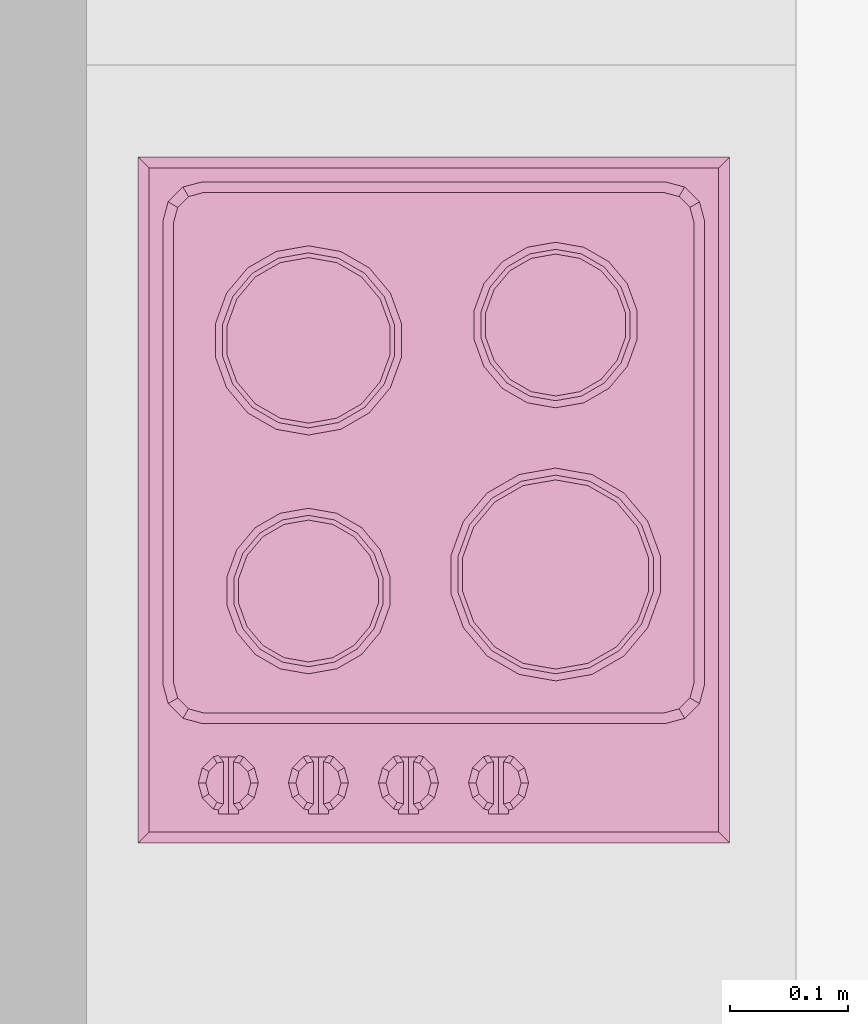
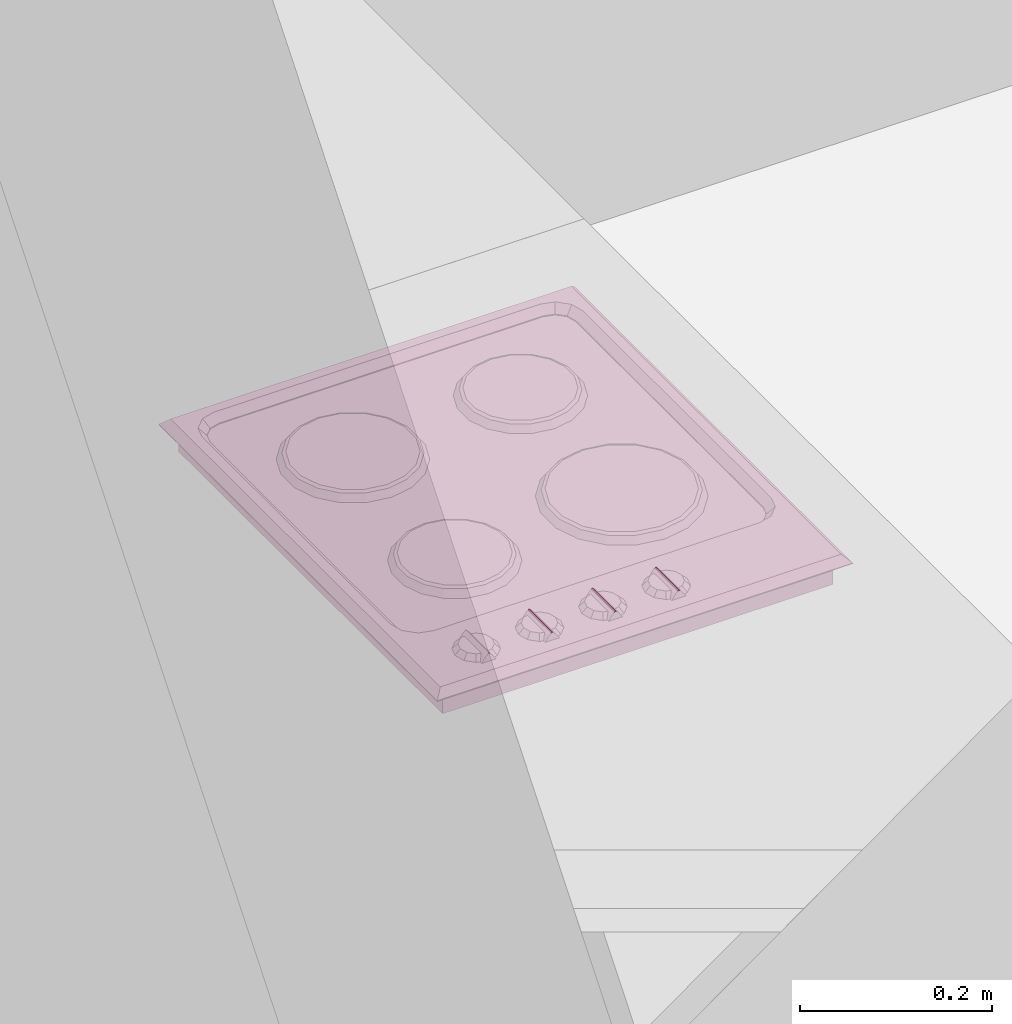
# One storey, part 172 of 172: 1 furnishing.
"""IFC2X3 building model written with IfcOpenShell, lengths in millimetres."""

from ifc_helpers import new_model, entity, si_unit, converted_unit, money_unit, direction, frame, origin_with_axes, place, context, subcontext, project, spatial, faceted_brep, material, material_list, type_object, element, save


model = new_model("IFC2X3")

# Units and contexts
model_context = context("Model", 3, precision=1e-05, world=origin_with_axes(), true_north=direction((0.0, 1.0)))
body_context = subcontext(model_context, "Body", "Model", "MODEL_VIEW")
ifc_project = project(units=[si_unit("LENGTHUNIT", "METRE", prefix="MILLI"), si_unit("AREAUNIT", "SQUARE_METRE"), si_unit("VOLUMEUNIT", "CUBIC_METRE"), converted_unit("PLANEANGLEUNIT", "DEGREE", entity("IfcPlaneAngleMeasure", 0.0174532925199), si_unit("PLANEANGLEUNIT", "RADIAN"), dimensions=[0, 0, 0, 0, 0, 0, 0]), si_unit("SOLIDANGLEUNIT", "STERADIAN"), money_unit("USD"), converted_unit("TIMEUNIT", "Year", entity("IfcTimeMeasure", 31556926.0), si_unit("TIMEUNIT", "SECOND"), dimensions=[0, 0, 0, 0, 0, 0, 0]), si_unit("MASSUNIT", "GRAM"), si_unit("THERMODYNAMICTEMPERATUREUNIT", "DEGREE_CELSIUS"), si_unit("LUMINOUSINTENSITYUNIT", "LUMEN")], contexts=[model_context])

# Site, building, storey
site_placement = place(None, origin_with_axes())
site = spatial("IfcSite", under=ifc_project, at=site_placement, Name="Site", CompositionType="ELEMENT")
building_placement = place(site_placement, origin_with_axes())
building = spatial("IfcBuilding", under=site, at=building_placement, Name="Building", CompositionType="ELEMENT")
storey_placement = place(building_placement, frame((0.0, 0.0, 3200.0), z_axis=(0.0, 0.0, 1.0), x_axis=(1.0, 0.0, 0.0)))
storey = spatial("IfcBuildingStorey", under=building, at=storey_placement, Name="3KORRUS", CompositionType="ELEMENT", Elevation=3200.0)

# Furnishing
ifc_material = material(Name="Background")
ifc_material_list = material_list([ifc_material])
furnishing_element_type = type_object("IfcFurnishingElementType", Name="Cooktops Electric 19")
furnishing_placement = place(storey_placement, frame((-17946.5850987, -14367.2886973, -20.0), z_axis=(0.0, 0.0, 1.0), x_axis=(0.0, -1.0, 0.0)))
element("IfcFurnishingElement", 1, at=furnishing_placement, inside=storey, type_object=furnishing_element_type, material=ifc_material_list, Name="FU - 007", context=body_context, shape_type="Brep", body=[
    faceted_brep([(230.175, 116.638, 900.0), (235.0, 144.0, 900.0), (229.0, 144.0, 908.0), (224.537, 118.691, 908.0), (216.284, 92.577, 900.0), (195.0, 74.718, 900.0), (168.892, 65.215, 900.0), (141.108, 65.215, 900.0), (115.0, 74.718, 900.0), (93.716, 92.577, 900.0), (79.825, 116.638, 900.0), (75.0, 144.0, 900.0), (79.825, 171.362, 900.0), (93.716, 195.423, 900.0), (115.0, 213.282, 900.0), (141.108, 222.785, 900.0), (168.892, 222.785, 900.0), (195.0, 213.282, 900.0), (216.284, 195.423, 900.0), (230.175, 171.362, 900.0), (224.537, 169.309, 908.0), (211.687, 191.566, 908.0), (192.0, 208.086, 908.0), (167.85, 216.876, 908.0), (142.15, 216.876, 908.0), (118.0, 208.086, 908.0), (98.313, 191.566, 908.0), (85.463, 169.309, 908.0), (81.0, 144.0, 908.0), (85.463, 118.691, 908.0), (98.313, 96.434, 908.0), (118.0, 79.914, 908.0), (142.15, 71.124, 908.0), (167.85, 71.124, 908.0), (192.0, 79.914, 908.0), (211.687, 96.434, 908.0)], [[[0, 1, 2, 3]], [[0, 4, 5, 6, 7, 8, 9, 10, 11, 12, 13, 14, 15, 16, 17, 18, 19, 1]], [[1, 19, 20, 2]], [[3, 2, 20, 21, 22, 23, 24, 25, 26, 27, 28, 29, 30, 31, 32, 33, 34, 35]], [[4, 0, 3, 35]], [[5, 4, 35, 34]], [[6, 5, 34, 33]], [[7, 6, 33, 32]], [[8, 7, 32, 31]], [[9, 8, 31, 30]], [[10, 9, 30, 29]], [[11, 10, 29, 28]], [[12, 11, 28, 27]], [[13, 12, 27, 26]], [[14, 13, 26, 25]], [[15, 14, 25, 24]], [[16, 15, 24, 23]], [[17, 16, 23, 22]], [[18, 17, 22, 21]], [[19, 18, 21, 20]]]),
    faceted_brep([(224.537, 118.691, 908.0), (229.0, 144.0, 908.0), (225.0, 144.0, 910.0), (220.778, 120.059, 910.0), (211.687, 96.434, 908.0), (192.0, 79.914, 908.0), (167.85, 71.124, 908.0), (142.15, 71.124, 908.0), (118.0, 79.914, 908.0), (98.313, 96.434, 908.0), (85.463, 118.691, 908.0), (81.0, 144.0, 908.0), (85.463, 169.309, 908.0), (98.313, 191.566, 908.0), (118.0, 208.086, 908.0), (142.15, 216.876, 908.0), (167.85, 216.876, 908.0), (192.0, 208.086, 908.0), (211.687, 191.566, 908.0), (224.537, 169.309, 908.0), (220.778, 167.941, 910.0), (208.623, 188.995, 910.0), (190.0, 204.622, 910.0), (167.155, 212.937, 910.0), (142.845, 212.937, 910.0), (120.0, 204.622, 910.0), (101.377, 188.995, 910.0), (89.222, 167.941, 910.0), (85.0, 144.0, 910.0), (89.222, 120.059, 910.0), (101.377, 99.005, 910.0), (120.0, 83.378, 910.0), (142.845, 75.063, 910.0), (167.155, 75.063, 910.0), (190.0, 83.378, 910.0), (208.623, 99.005, 910.0)], [[[0, 1, 2, 3]], [[0, 4, 5, 6, 7, 8, 9, 10, 11, 12, 13, 14, 15, 16, 17, 18, 19, 1]], [[1, 19, 20, 2]], [[3, 2, 20, 21, 22, 23, 24, 25, 26, 27, 28, 29, 30, 31, 32, 33, 34, 35]], [[4, 0, 3, 35]], [[5, 4, 35, 34]], [[6, 5, 34, 33]], [[7, 6, 33, 32]], [[8, 7, 32, 31]], [[9, 8, 31, 30]], [[10, 9, 30, 29]], [[11, 10, 29, 28]], [[12, 11, 28, 27]], [[13, 12, 27, 26]], [[14, 13, 26, 25]], [[15, 14, 25, 24]], [[16, 15, 24, 23]], [[17, 16, 23, 22]], [[18, 17, 22, 21]], [[19, 18, 21, 20]]]),
    faceted_brep([(432.778, 120.059, 900.0), (437.0, 144.0, 900.0), (431.0, 144.0, 908.0), (427.14, 122.111, 908.0), (420.623, 99.005, 900.0), (402.0, 83.378, 900.0), (379.155, 75.063, 900.0), (354.845, 75.063, 900.0), (332.0, 83.378, 900.0), (313.377, 99.005, 900.0), (301.222, 120.059, 900.0), (297.0, 144.0, 900.0), (301.222, 167.941, 900.0), (313.377, 188.995, 900.0), (332.0, 204.622, 900.0), (354.845, 212.937, 900.0), (379.155, 212.937, 900.0), (402.0, 204.622, 900.0), (420.623, 188.995, 900.0), (432.778, 167.941, 900.0), (427.14, 165.889, 908.0), (416.027, 185.138, 908.0), (399.0, 199.426, 908.0), (378.113, 207.028, 908.0), (355.887, 207.028, 908.0), (335.0, 199.426, 908.0), (317.973, 185.138, 908.0), (306.86, 165.889, 908.0), (303.0, 144.0, 908.0), (306.86, 122.111, 908.0), (317.973, 102.862, 908.0), (335.0, 88.574, 908.0), (355.887, 80.972, 908.0), (378.113, 80.972, 908.0), (399.0, 88.574, 908.0), (416.027, 102.862, 908.0)], [[[0, 1, 2, 3]], [[0, 4, 5, 6, 7, 8, 9, 10, 11, 12, 13, 14, 15, 16, 17, 18, 19, 1]], [[1, 19, 20, 2]], [[3, 2, 20, 21, 22, 23, 24, 25, 26, 27, 28, 29, 30, 31, 32, 33, 34, 35]], [[4, 0, 3, 35]], [[5, 4, 35, 34]], [[6, 5, 34, 33]], [[7, 6, 33, 32]], [[8, 7, 32, 31]], [[9, 8, 31, 30]], [[10, 9, 30, 29]], [[11, 10, 29, 28]], [[12, 11, 28, 27]], [[13, 12, 27, 26]], [[14, 13, 26, 25]], [[15, 14, 25, 24]], [[16, 15, 24, 23]], [[17, 16, 23, 22]], [[18, 17, 22, 21]], [[19, 18, 21, 20]]]),
    faceted_brep([(427.14, 122.111, 908.0), (431.0, 144.0, 908.0), (427.0, 144.0, 910.0), (423.382, 123.479, 910.0), (416.027, 102.862, 908.0), (399.0, 88.574, 908.0), (378.113, 80.972, 908.0), (355.887, 80.972, 908.0), (335.0, 88.574, 908.0), (317.973, 102.862, 908.0), (306.86, 122.111, 908.0), (303.0, 144.0, 908.0), (306.86, 165.889, 908.0), (317.973, 185.138, 908.0), (335.0, 199.426, 908.0), (355.887, 207.028, 908.0), (378.113, 207.028, 908.0), (399.0, 199.426, 908.0), (416.027, 185.138, 908.0), (427.14, 165.889, 908.0), (423.382, 164.521, 910.0), (412.963, 182.567, 910.0), (397.0, 195.962, 910.0), (377.419, 203.088, 910.0), (356.581, 203.088, 910.0), (337.0, 195.962, 910.0), (321.037, 182.567, 910.0), (310.618, 164.521, 910.0), (307.0, 144.0, 910.0), (310.618, 123.479, 910.0), (321.037, 105.433, 910.0), (337.0, 92.038, 910.0), (356.581, 84.912, 910.0), (377.419, 84.912, 910.0), (397.0, 92.038, 910.0), (412.963, 105.433, 910.0)], [[[0, 1, 2, 3]], [[0, 4, 5, 6, 7, 8, 9, 10, 11, 12, 13, 14, 15, 16, 17, 18, 19, 1]], [[1, 19, 20, 2]], [[3, 2, 20, 21, 22, 23, 24, 25, 26, 27, 28, 29, 30, 31, 32, 33, 34, 35]], [[4, 0, 3, 35]], [[5, 4, 35, 34]], [[6, 5, 34, 33]], [[7, 6, 33, 32]], [[8, 7, 32, 31]], [[9, 8, 31, 30]], [[10, 9, 30, 29]], [[11, 10, 29, 28]], [[12, 11, 28, 27]], [[13, 12, 27, 26]], [[14, 13, 26, 25]], [[15, 14, 25, 24]], [[16, 15, 24, 23]], [[17, 16, 23, 22]], [[18, 17, 22, 21]], [[19, 18, 21, 20]]]),
    faceted_brep([(437.572, 322.218, 900.0), (443.0, 353.0, 900.0), (437.0, 353.0, 908.0), (431.934, 324.27, 908.0), (421.944, 295.149, 900.0), (398.0, 275.058, 900.0), (368.628, 264.367, 900.0), (337.372, 264.367, 900.0), (308.0, 275.058, 900.0), (284.056, 295.149, 900.0), (268.428, 322.218, 900.0), (263.0, 353.0, 900.0), (268.428, 383.782, 900.0), (284.056, 410.851, 900.0), (308.0, 430.942, 900.0), (337.372, 441.633, 900.0), (368.628, 441.633, 900.0), (398.0, 430.942, 900.0), (421.944, 410.851, 900.0), (437.572, 383.782, 900.0), (431.934, 381.73, 908.0), (417.348, 406.994, 908.0), (395.0, 425.746, 908.0), (367.586, 435.724, 908.0), (338.414, 435.724, 908.0), (311.0, 425.746, 908.0), (288.652, 406.994, 908.0), (274.066, 381.73, 908.0), (269.0, 353.0, 908.0), (274.066, 324.27, 908.0), (288.652, 299.006, 908.0), (311.0, 280.254, 908.0), (338.414, 270.276, 908.0), (367.586, 270.276, 908.0), (395.0, 280.254, 908.0), (417.348, 299.006, 908.0)], [[[0, 1, 2, 3]], [[0, 4, 5, 6, 7, 8, 9, 10, 11, 12, 13, 14, 15, 16, 17, 18, 19, 1]], [[1, 19, 20, 2]], [[3, 2, 20, 21, 22, 23, 24, 25, 26, 27, 28, 29, 30, 31, 32, 33, 34, 35]], [[4, 0, 3, 35]], [[5, 4, 35, 34]], [[6, 5, 34, 33]], [[7, 6, 33, 32]], [[8, 7, 32, 31]], [[9, 8, 31, 30]], [[10, 9, 30, 29]], [[11, 10, 29, 28]], [[12, 11, 28, 27]], [[13, 12, 27, 26]], [[14, 13, 26, 25]], [[15, 14, 25, 24]], [[16, 15, 24, 23]], [[17, 16, 23, 22]], [[18, 17, 22, 21]], [[19, 18, 21, 20]]]),
    faceted_brep([(431.934, 324.27, 908.0), (437.0, 353.0, 908.0), (433.0, 353.0, 910.0), (428.175, 325.638, 910.0), (417.348, 299.006, 908.0), (395.0, 280.254, 908.0), (367.586, 270.276, 908.0), (338.414, 270.276, 908.0), (311.0, 280.254, 908.0), (288.652, 299.006, 908.0), (274.066, 324.27, 908.0), (269.0, 353.0, 908.0), (274.066, 381.73, 908.0), (288.652, 406.994, 908.0), (311.0, 425.746, 908.0), (338.414, 435.724, 908.0), (367.586, 435.724, 908.0), (395.0, 425.746, 908.0), (417.348, 406.994, 908.0), (431.934, 381.73, 908.0), (428.175, 380.362, 910.0), (414.284, 404.423, 910.0), (393.0, 422.282, 910.0), (366.892, 431.785, 910.0), (339.108, 431.785, 910.0), (313.0, 422.282, 910.0), (291.716, 404.423, 910.0), (277.825, 380.362, 910.0), (273.0, 353.0, 910.0), (277.825, 325.638, 910.0), (291.716, 301.577, 910.0), (313.0, 283.718, 910.0), (339.108, 274.215, 910.0), (366.892, 274.215, 910.0), (393.0, 283.718, 910.0), (414.284, 301.577, 910.0)], [[[0, 1, 2, 3]], [[0, 4, 5, 6, 7, 8, 9, 10, 11, 12, 13, 14, 15, 16, 17, 18, 19, 1]], [[1, 19, 20, 2]], [[3, 2, 20, 21, 22, 23, 24, 25, 26, 27, 28, 29, 30, 31, 32, 33, 34, 35]], [[4, 0, 3, 35]], [[5, 4, 35, 34]], [[6, 5, 34, 33]], [[7, 6, 33, 32]], [[8, 7, 32, 31]], [[9, 8, 31, 30]], [[10, 9, 30, 29]], [[11, 10, 29, 28]], [[12, 11, 28, 27]], [[13, 12, 27, 26]], [[14, 13, 26, 25]], [[15, 14, 25, 24]], [[16, 15, 24, 23]], [[17, 16, 23, 22]], [[18, 17, 22, 21]], [[19, 18, 21, 20]]]),
    faceted_brep([(207.778, 329.059, 900.0), (212.0, 353.0, 900.0), (206.0, 353.0, 908.0), (202.14, 331.111, 908.0), (195.623, 308.005, 900.0), (177.0, 292.378, 900.0), (154.155, 284.063, 900.0), (129.845, 284.063, 900.0), (107.0, 292.378, 900.0), (88.377, 308.005, 900.0), (76.222, 329.059, 900.0), (72.0, 353.0, 900.0), (76.222, 376.941, 900.0), (88.377, 397.995, 900.0), (107.0, 413.622, 900.0), (129.845, 421.937, 900.0), (154.155, 421.937, 900.0), (177.0, 413.622, 900.0), (195.623, 397.995, 900.0), (207.778, 376.941, 900.0), (202.14, 374.889, 908.0), (191.027, 394.138, 908.0), (174.0, 408.426, 908.0), (153.113, 416.028, 908.0), (130.887, 416.028, 908.0), (110.0, 408.426, 908.0), (92.973, 394.138, 908.0), (81.86, 374.889, 908.0), (78.0, 353.0, 908.0), (81.86, 331.111, 908.0), (92.973, 311.862, 908.0), (110.0, 297.574, 908.0), (130.887, 289.972, 908.0), (153.113, 289.972, 908.0), (174.0, 297.574, 908.0), (191.027, 311.862, 908.0)], [[[0, 1, 2, 3]], [[0, 4, 5, 6, 7, 8, 9, 10, 11, 12, 13, 14, 15, 16, 17, 18, 19, 1]], [[1, 19, 20, 2]], [[3, 2, 20, 21, 22, 23, 24, 25, 26, 27, 28, 29, 30, 31, 32, 33, 34, 35]], [[4, 0, 3, 35]], [[5, 4, 35, 34]], [[6, 5, 34, 33]], [[7, 6, 33, 32]], [[8, 7, 32, 31]], [[9, 8, 31, 30]], [[10, 9, 30, 29]], [[11, 10, 29, 28]], [[12, 11, 28, 27]], [[13, 12, 27, 26]], [[14, 13, 26, 25]], [[15, 14, 25, 24]], [[16, 15, 24, 23]], [[17, 16, 23, 22]], [[18, 17, 22, 21]], [[19, 18, 21, 20]]]),
    faceted_brep([(202.14, 331.111, 908.0), (206.0, 353.0, 908.0), (202.0, 353.0, 910.0), (198.382, 332.479, 910.0), (191.027, 311.862, 908.0), (174.0, 297.574, 908.0), (153.113, 289.972, 908.0), (130.887, 289.972, 908.0), (110.0, 297.574, 908.0), (92.973, 311.862, 908.0), (81.86, 331.111, 908.0), (78.0, 353.0, 908.0), (81.86, 374.889, 908.0), (92.973, 394.138, 908.0), (110.0, 408.426, 908.0), (130.887, 416.028, 908.0), (153.113, 416.028, 908.0), (174.0, 408.426, 908.0), (191.027, 394.138, 908.0), (202.14, 374.889, 908.0), (198.382, 373.521, 910.0), (187.963, 391.567, 910.0), (172.0, 404.962, 910.0), (152.419, 412.088, 910.0), (131.581, 412.088, 910.0), (112.0, 404.962, 910.0), (96.037, 391.567, 910.0), (85.618, 373.521, 910.0), (82.0, 353.0, 910.0), (85.618, 332.479, 910.0), (96.037, 314.433, 910.0), (112.0, 301.038, 910.0), (131.581, 293.912, 910.0), (152.419, 293.912, 910.0), (172.0, 301.038, 910.0), (187.963, 314.433, 910.0)], [[[0, 1, 2, 3]], [[0, 4, 5, 6, 7, 8, 9, 10, 11, 12, 13, 14, 15, 16, 17, 18, 19, 1]], [[1, 19, 20, 2]], [[3, 2, 20, 21, 22, 23, 24, 25, 26, 27, 28, 29, 30, 31, 32, 33, 34, 35]], [[4, 0, 3, 35]], [[5, 4, 35, 34]], [[6, 5, 34, 33]], [[7, 6, 33, 32]], [[8, 7, 32, 31]], [[9, 8, 31, 30]], [[10, 9, 30, 29]], [[11, 10, 29, 28]], [[12, 11, 28, 27]], [[13, 12, 27, 26]], [[14, 13, 26, 25]], [[15, 14, 25, 24]], [[16, 15, 24, 23]], [[17, 16, 23, 22]], [[18, 17, 22, 21]], [[19, 18, 21, 20]]]),
    faceted_brep([(506.069, 67.733, 910.0), (552.331, 67.733, 910.0), (551.197, 63.5, 910.0), (541.9, 54.203, 910.0), (529.2, 50.8, 910.0), (516.5, 54.203, 910.0), (507.203, 63.5, 910.0), (547.116, 71.967, 916.35), (511.284, 71.967, 916.35), (545.698, 66.675, 916.35), (538.725, 59.702, 916.35), (529.2, 57.15, 916.35), (519.675, 59.702, 916.35), (512.702, 66.675, 916.35)], [[[0, 1, 2, 3, 4, 5, 6]], [[7, 1, 0, 8]], [[1, 7, 9, 2]], [[9, 10, 3, 2]], [[10, 11, 4, 3]], [[11, 12, 5, 4]], [[12, 13, 6, 5]], [[8, 0, 6, 13]], [[7, 8, 13, 12, 11, 10, 9]]]),
    faceted_brep([(547.116, 80.433, 916.35), (552.331, 84.667, 910.0), (551.197, 88.9, 910.0), (545.698, 85.725, 916.35), (506.069, 84.667, 910.0), (511.284, 80.433, 916.35), (507.203, 88.9, 910.0), (516.5, 98.197, 910.0), (529.2, 101.6, 910.0), (541.9, 98.197, 910.0), (538.725, 92.698, 916.35), (529.2, 95.25, 916.35), (519.675, 92.698, 916.35), (512.702, 85.725, 916.35)], [[[0, 1, 2, 3]], [[4, 1, 0, 5]], [[1, 4, 6, 7, 8, 9, 2]], [[10, 3, 2, 9]], [[5, 0, 3, 10, 11, 12, 13]], [[4, 5, 13, 6]], [[13, 12, 7, 6]], [[12, 11, 8, 7]], [[11, 10, 9, 8]]]),
    faceted_brep([(555.658, 84.667, 910.0), (555.658, 67.733, 910.0), (507.398, 67.733, 910.0), (507.398, 84.667, 910.0), (555.658, 80.433, 916.35), (555.658, 76.2, 920.583), (555.658, 71.967, 916.35), (507.398, 71.967, 916.35), (507.398, 76.2, 920.583), (507.398, 80.433, 916.35)], [[[0, 1, 2, 3]], [[0, 4, 5, 6, 1]], [[1, 6, 7, 2]], [[3, 2, 7, 8, 9]], [[4, 0, 3, 9]], [[5, 4, 9, 8]], [[6, 5, 8, 7]]]),
    faceted_brep([(506.069, 143.933, 910.0), (552.331, 143.933, 910.0), (551.197, 139.7, 910.0), (541.9, 130.403, 910.0), (529.2, 127.0, 910.0), (516.5, 130.403, 910.0), (507.203, 139.7, 910.0), (547.116, 148.167, 916.35), (511.284, 148.167, 916.35), (545.698, 142.875, 916.35), (538.725, 135.902, 916.35), (529.2, 133.35, 916.35), (519.675, 135.902, 916.35), (512.702, 142.875, 916.35)], [[[0, 1, 2, 3, 4, 5, 6]], [[7, 1, 0, 8]], [[1, 7, 9, 2]], [[9, 10, 3, 2]], [[10, 11, 4, 3]], [[11, 12, 5, 4]], [[12, 13, 6, 5]], [[8, 0, 6, 13]], [[7, 8, 13, 12, 11, 10, 9]]]),
    faceted_brep([(547.116, 156.633, 916.35), (552.331, 160.867, 910.0), (551.197, 165.1, 910.0), (545.698, 161.925, 916.35), (506.069, 160.867, 910.0), (511.284, 156.633, 916.35), (507.203, 165.1, 910.0), (516.5, 174.397, 910.0), (529.2, 177.8, 910.0), (541.9, 174.397, 910.0), (538.725, 168.898, 916.35), (529.2, 171.45, 916.35), (519.675, 168.898, 916.35), (512.702, 161.925, 916.35)], [[[0, 1, 2, 3]], [[4, 1, 0, 5]], [[1, 4, 6, 7, 8, 9, 2]], [[10, 3, 2, 9]], [[5, 0, 3, 10, 11, 12, 13]], [[4, 5, 13, 6]], [[13, 12, 7, 6]], [[12, 11, 8, 7]], [[11, 10, 9, 8]]]),
    faceted_brep([(555.658, 160.867, 910.0), (555.658, 143.933, 910.0), (507.398, 143.933, 910.0), (507.398, 160.867, 910.0), (555.658, 156.633, 916.35), (555.658, 152.4, 920.583), (555.658, 148.167, 916.35), (507.398, 148.167, 916.35), (507.398, 152.4, 920.583), (507.398, 156.633, 916.35)], [[[0, 1, 2, 3]], [[0, 4, 5, 6, 1]], [[1, 6, 7, 2]], [[3, 2, 7, 8, 9]], [[4, 0, 3, 9]], [[5, 4, 9, 8]], [[6, 5, 8, 7]]]),
    faceted_brep([(506.069, 220.133, 910.0), (552.331, 220.133, 910.0), (551.197, 215.9, 910.0), (541.9, 206.603, 910.0), (529.2, 203.2, 910.0), (516.5, 206.603, 910.0), (507.203, 215.9, 910.0), (547.116, 224.367, 916.35), (511.284, 224.367, 916.35), (545.698, 219.075, 916.35), (538.725, 212.102, 916.35), (529.2, 209.55, 916.35), (519.675, 212.102, 916.35), (512.702, 219.075, 916.35)], [[[0, 1, 2, 3, 4, 5, 6]], [[7, 1, 0, 8]], [[1, 7, 9, 2]], [[9, 10, 3, 2]], [[10, 11, 4, 3]], [[11, 12, 5, 4]], [[12, 13, 6, 5]], [[8, 0, 6, 13]], [[7, 8, 13, 12, 11, 10, 9]]]),
    faceted_brep([(547.116, 232.833, 916.35), (552.331, 237.067, 910.0), (551.197, 241.3, 910.0), (545.698, 238.125, 916.35), (506.069, 237.067, 910.0), (511.284, 232.833, 916.35), (507.203, 241.3, 910.0), (516.5, 250.597, 910.0), (529.2, 254.0, 910.0), (541.9, 250.597, 910.0), (538.725, 245.098, 916.35), (529.2, 247.65, 916.35), (519.675, 245.098, 916.35), (512.702, 238.125, 916.35)], [[[0, 1, 2, 3]], [[4, 1, 0, 5]], [[1, 4, 6, 7, 8, 9, 2]], [[10, 3, 2, 9]], [[5, 0, 3, 10, 11, 12, 13]], [[4, 5, 13, 6]], [[13, 12, 7, 6]], [[12, 11, 8, 7]], [[11, 10, 9, 8]]]),
    faceted_brep([(555.658, 237.067, 910.0), (555.658, 220.133, 910.0), (507.398, 220.133, 910.0), (507.398, 237.067, 910.0), (555.658, 232.833, 916.35), (555.658, 228.6, 920.583), (555.658, 224.367, 916.35), (507.398, 224.367, 916.35), (507.398, 228.6, 920.583), (507.398, 232.833, 916.35)], [[[0, 1, 2, 3]], [[0, 4, 5, 6, 1]], [[1, 6, 7, 2]], [[3, 2, 7, 8, 9]], [[4, 0, 3, 9]], [[5, 4, 9, 8]], [[6, 5, 8, 7]]]),
    faceted_brep([(506.069, 296.333, 910.0), (552.331, 296.333, 910.0), (551.197, 292.1, 910.0), (541.9, 282.803, 910.0), (529.2, 279.4, 910.0), (516.5, 282.803, 910.0), (507.203, 292.1, 910.0), (547.116, 300.567, 916.35), (511.284, 300.567, 916.35), (545.698, 295.275, 916.35), (538.725, 288.302, 916.35), (529.2, 285.75, 916.35), (519.675, 288.302, 916.35), (512.702, 295.275, 916.35)], [[[0, 1, 2, 3, 4, 5, 6]], [[7, 1, 0, 8]], [[1, 7, 9, 2]], [[9, 10, 3, 2]], [[10, 11, 4, 3]], [[11, 12, 5, 4]], [[12, 13, 6, 5]], [[8, 0, 6, 13]], [[7, 8, 13, 12, 11, 10, 9]]]),
    faceted_brep([(547.116, 309.033, 916.35), (552.331, 313.267, 910.0), (551.197, 317.5, 910.0), (545.698, 314.325, 916.35), (506.069, 313.267, 910.0), (511.284, 309.033, 916.35), (507.203, 317.5, 910.0), (516.5, 326.797, 910.0), (529.2, 330.2, 910.0), (541.9, 326.797, 910.0), (538.725, 321.298, 916.35), (529.2, 323.85, 916.35), (519.675, 321.298, 916.35), (512.702, 314.325, 916.35)], [[[0, 1, 2, 3]], [[4, 1, 0, 5]], [[1, 4, 6, 7, 8, 9, 2]], [[10, 3, 2, 9]], [[5, 0, 3, 10, 11, 12, 13]], [[4, 5, 13, 6]], [[13, 12, 7, 6]], [[12, 11, 8, 7]], [[11, 10, 9, 8]]]),
    faceted_brep([(555.658, 313.267, 910.0), (555.658, 296.333, 910.0), (507.398, 296.333, 910.0), (507.398, 313.267, 910.0), (555.658, 309.033, 916.35), (555.658, 304.8, 920.583), (555.658, 300.567, 916.35), (507.398, 300.567, 916.35), (507.398, 304.8, 920.583), (507.398, 309.033, 916.35)], [[[0, 1, 2, 3]], [[0, 4, 5, 6, 1]], [[1, 6, 7, 2]], [[3, 2, 7, 8, 9]], [[4, 0, 3, 9]], [[5, 4, 9, 8]], [[6, 5, 8, 7]]]),
    faceted_brep([(580.0, 0.0, 900.0), (0.0, 0.0, 900.0), (0.0, 500.0, 900.0), (580.0, 500.0, 900.0), (33.349, 457.5, 900.0), (30.0, 445.0, 900.0), (30.0, 55.0, 900.0), (33.349, 42.5, 900.0), (42.5, 33.349, 900.0), (55.0, 30.0, 900.0), (445.0, 30.0, 900.0), (457.5, 33.349, 900.0), (466.651, 42.5, 900.0), (470.0, 55.0, 900.0), (470.0, 445.0, 900.0), (466.651, 457.5, 900.0), (457.5, 466.651, 900.0), (445.0, 470.0, 900.0), (55.0, 470.0, 900.0), (42.5, 466.651, 900.0), (580.0, 0.0, 901.0), (0.0, 0.0, 901.0), (0.0, 500.0, 901.0), (580.0, 500.0, 901.0), (33.349, 457.5, 901.0), (30.0, 445.0, 901.0), (30.0, 55.0, 901.0), (33.349, 42.5, 901.0), (42.5, 33.349, 901.0), (55.0, 30.0, 901.0), (445.0, 30.0, 901.0), (457.5, 33.349, 901.0), (466.651, 42.5, 901.0), (470.0, 55.0, 901.0), (470.0, 445.0, 901.0), (466.651, 457.5, 901.0), (457.5, 466.651, 901.0), (445.0, 470.0, 901.0), (55.0, 470.0, 901.0), (42.5, 466.651, 901.0), (571.0, 9.0, 910.0), (9.0, 9.0, 910.0), (9.0, 491.0, 910.0), (571.0, 491.0, 910.0), (25.28, 462.159, 910.0), (21.0, 446.185, 910.0), (21.0, 53.815, 910.0), (25.28, 37.841, 910.0), (37.841, 25.28, 910.0), (53.815, 21.0, 910.0), (446.185, 21.0, 910.0), (462.159, 25.28, 910.0), (474.72, 37.841, 910.0), (479.0, 53.815, 910.0), (479.0, 446.185, 910.0), (474.72, 462.159, 910.0), (462.159, 474.72, 910.0), (446.185, 479.0, 910.0), (53.815, 479.0, 910.0), (37.841, 474.72, 910.0)], [[[0, 1, 2, 3], [4, 5, 6, 7, 8, 9, 10, 11, 12, 13, 14, 15, 16, 17, 18, 19]], [[1, 0, 20, 21]], [[2, 1, 21, 22]], [[3, 2, 22, 23]], [[0, 3, 23, 20]], [[5, 4, 24, 25]], [[6, 5, 25, 26]], [[7, 6, 26, 27]], [[8, 7, 27, 28]], [[9, 8, 28, 29]], [[10, 9, 29, 30]], [[11, 10, 30, 31]], [[12, 11, 31, 32]], [[13, 12, 32, 33]], [[14, 13, 33, 34]], [[15, 14, 34, 35]], [[16, 15, 35, 36]], [[17, 16, 36, 37]], [[18, 17, 37, 38]], [[19, 18, 38, 39]], [[4, 19, 39, 24]], [[21, 20, 40, 41]], [[22, 21, 41, 42]], [[23, 22, 42, 43]], [[20, 23, 43, 40]], [[25, 24, 44, 45]], [[26, 25, 45, 46]], [[27, 26, 46, 47]], [[28, 27, 47, 48]], [[29, 28, 48, 49]], [[30, 29, 49, 50]], [[31, 30, 50, 51]], [[32, 31, 51, 52]], [[33, 32, 52, 53]], [[34, 33, 53, 54]], [[35, 34, 54, 55]], [[36, 35, 55, 56]], [[37, 36, 56, 57]], [[38, 37, 57, 58]], [[39, 38, 58, 59]], [[24, 39, 59, 44]], [[42, 41, 40, 43], [46, 45, 44, 59, 58, 57, 56, 55, 54, 53, 52, 51, 50, 49, 48, 47]]]),
    faceted_brep([(565.0, 485.0, 870.0), (15.0, 485.0, 870.0), (15.0, 485.0, 900.0), (565.0, 485.0, 900.0), (565.0, 15.0, 870.0), (15.0, 15.0, 870.0), (15.0, 15.0, 900.0), (565.0, 15.0, 900.0)], [[[0, 1, 2, 3]], [[0, 4, 5, 1]], [[1, 5, 6, 2]], [[3, 2, 6, 7]], [[4, 0, 3, 7]], [[5, 4, 7, 6]]]),
])

save(model, "model.ifc")
